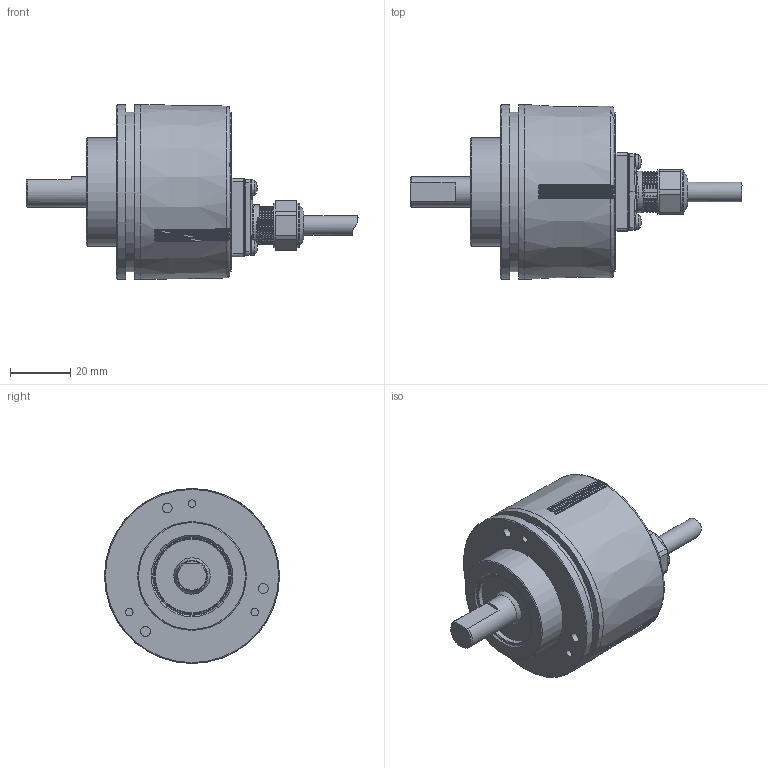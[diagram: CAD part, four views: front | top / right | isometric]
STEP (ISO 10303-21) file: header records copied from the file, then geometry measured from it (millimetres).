
FILE_DESCRIPTION( ( 'Unknown' ), '1' );
FILE_NAME( '//emea.baumernet.org/de05d/RD/caddy/k/GESAMT/EIL580/EIL580/3D/STEP/MarCom/EIL580-SC10.7Tx.xxxxx.A.stp', 'Unknown', ( 'Unknown' ), ( 'Unknown' ), 'PSStep 19.0.9', 'Unknown', ' ' );
FILE_SCHEMA( ( 'AUTOMOTIVE_DESIGN { 1 0 10303 214 1 1 1 1 }' ) );
Length unit declared in the file: millimetre
Products named in the file (2): Assem1; 1_107
Assembly tree (1 placements, depth 2):
  Assem1
    1_107
Bounding box: 110.1 x 58 x 58 mm (x, y, z)
Volume: 114804.7 mm3; surface area: 21447 mm2
Topology: 1 solids, 34 shells, 786 faces, 1835 edges, 1128 vertices
Faces by surface type: plane 223, bspline 212, cylinder 197, cone 70, torus 51, sphere 31, revolution 2
Full cylindrical faces by diameter (mm): 2.46 x6, 2.5 x4, 3.24 x6, 5 x4, 6.5 x1, 7.7 x1, 8.2 x1, 9 x1, 9.8 x1, 10 x2, 11.262 x1, 11.704 x1, 11.8 x1, 12.2 x1, 12.8 x1, 12.85 x1, 13.138 x1, 13.35 x1, 13.8 x1, 14.8 x2, 23.446 x1, 24 x1, 24.927 x1, 25.558 x1, 26 x2, 36 x1, 53 x2, 56 x1, 58 x2
Entity records: 51702 total; most frequent: CARTESIAN_POINT 30145, ORIENTED_EDGE 3316, DIRECTION 2542, EDGE_CURVE 1658, AXIS2_PLACEMENT_3D 1096, VERTEX_POINT 1088, EDGE_LOOP 962, FACE_OUTER_BOUND 856
